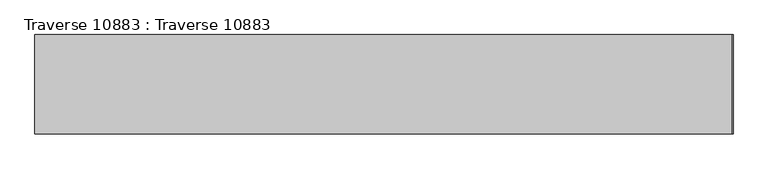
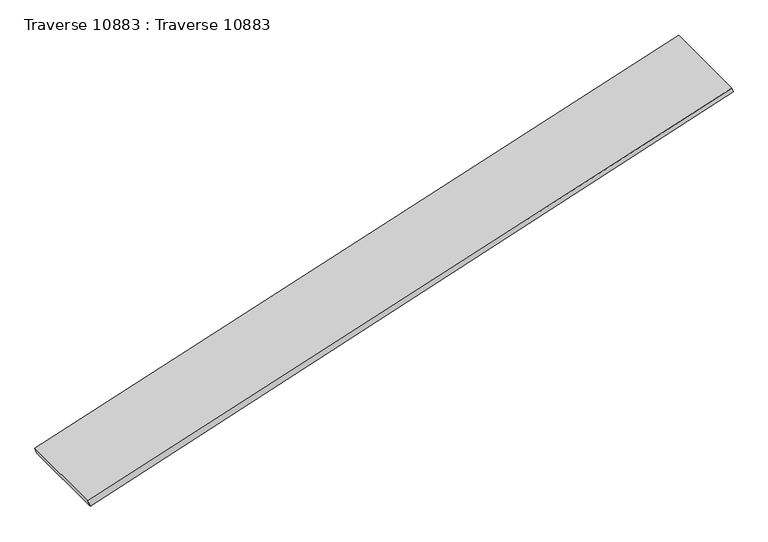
"""IFC4 building model written with IfcOpenShell, lengths in millimetres: beam geometry, Traverse 10883 : Traverse 10883."""

import ifcopenshell
import ifcopenshell.guid

model = None  # the IFC model being written
_history = None  # IfcOwnerHistory: only IFC2X3 demands one
_inside = {}  # id of a spatial element -> (the spatial element, [elements in it])
_under = {}  # id of a project, library or spatial element -> (it, [spatial elements below it])
_declared = {}  # id of a project -> (the project, [libraries it declares])
_typed = {}  # id of a type object -> (the type object, [elements of that type])
_made_of = {}  # id of a material, layer set ... -> (it, [elements and type objects made of it])


def new_model(schema):
    """Start an empty IFC model of exactly this schema.

    Asked for "IFC4X3", IfcOpenShell would pick the latest addendum, in which some entities
    have other attributes; the version numbers below select the first issue.
    IFC2X3 requires an IfcOwnerHistory on every rooted entity: one is made here for all.
    """
    global model, _history
    if schema == "IFC4X3":
        model = ifcopenshell.file(schema_version=(4, 3, 0, 0))
    else:
        model = ifcopenshell.file(schema=schema)
    _inside.clear()
    _under.clear()
    _declared.clear()
    _typed.clear()
    _made_of.clear()
    _history = None
    if model.schema == "IFC2X3":
        org = make("IfcOrganization", Name="unknown")
        user = make(
            "IfcPersonAndOrganization",
            ThePerson=make("IfcPerson", FamilyName="unknown"),
            TheOrganization=org,
        )
        app = make(
            "IfcApplication",
            ApplicationDeveloper=org,
            Version="unknown",
            ApplicationFullName="unknown",
            ApplicationIdentifier="unknown",
        )
        _history = make(
            "IfcOwnerHistory",
            OwningUser=user,
            OwningApplication=app,
            ChangeAction="ADDED",
            CreationDate=0,
        )
    return model


def make(cls, **values):
    """One entity of the class cls with the attributes given. An attribute that is None is left unset."""
    return model.create_entity(
        cls, **{name: value for name, value in values.items() if value is not None}
    )


def rooted(cls, **values):
    """An entity with a GlobalId (a new one), such as an element, a storey or a relation."""
    return make(cls, GlobalId=ifcopenshell.guid.new(), OwnerHistory=_history, **values)


def si_unit(unit_type, name, prefix=None):
    """IfcSIUnit, for example si_unit("LENGTHUNIT", "METRE", prefix="MILLI")."""
    return make("IfcSIUnit", UnitType=unit_type, Prefix=prefix, Name=name)


def assignment(units):
    """IfcUnitAssignment: the units of a project."""
    return None if units is None else make("IfcUnitAssignment", Units=units)


def point(xyz):
    """IfcCartesianPoint."""
    return None if xyz is None else make("IfcCartesianPoint", Coordinates=xyz)


def direction(xyz):
    """IfcDirection."""
    return None if xyz is None else make("IfcDirection", DirectionRatios=xyz)


def frame(location, z_axis=None, x_axis=None):
    """IfcAxis2Placement3D, a coordinate frame: its origin and axes. An axis left out is left unset."""
    return make(
        "IfcAxis2Placement3D",
        Location=point(location),
        Axis=direction(z_axis),
        RefDirection=direction(x_axis),
    )


def origin():
    """The frame at (0, 0, 0) with its axes left unset."""
    return frame((0.0, 0.0, 0.0))


def place(relative_to, where):
    """IfcLocalPlacement: puts the frame where relative to a parent placement (None: the world)."""
    return make(
        "IfcLocalPlacement", PlacementRelTo=relative_to, RelativePlacement=where
    )


def context(
    kind, dimensions, precision=None, world=None, true_north=None, identifier=None
):
    """IfcGeometricRepresentationContext, for example the 3D "Model" context."""
    return make(
        "IfcGeometricRepresentationContext",
        ContextIdentifier=identifier,
        ContextType=kind,
        CoordinateSpaceDimension=dimensions,
        Precision=precision,
        WorldCoordinateSystem=world,
        TrueNorth=true_north,
    )


def project(units=None, contexts=None):
    """IfcProject with its units and contexts."""
    return rooted(
        "IfcProject",
        Name="project",
        RepresentationContexts=contexts,
        UnitsInContext=assignment(units),
    )


def spatial(cls, under=None, at=None, **own):
    """A site, building, storey or space (cls), placed at a placement, below another one or the project."""
    s = rooted(cls, ObjectPlacement=at, **own)
    if under is not None:
        _under.setdefault(under.id(), (under, []))[1].append(s)
    return s


def polyline(points):
    """IfcPolyline through the points."""
    return make("IfcPolyline", Points=[point(p) for p in points])


def outline(outer, holes=None, kind="AREA"):
    """IfcArbitraryClosedProfileDef: a profile drawn as a closed curve; with holes, ...WithVoids."""
    if holes is None:
        return make("IfcArbitraryClosedProfileDef", ProfileType=kind, OuterCurve=outer)
    return make(
        "IfcArbitraryProfileDefWithVoids",
        ProfileType=kind,
        OuterCurve=outer,
        InnerCurves=holes,
    )


def extrude(swept, where, along, depth):
    """IfcExtrudedAreaSolid: the profile swept, set in the frame where, extruded along a direction by depth."""
    return make(
        "IfcExtrudedAreaSolid",
        SweptArea=swept,
        Position=where,
        ExtrudedDirection=direction(along),
        Depth=depth,
    )


def shape(context_of_items, identifier, shape_type, items):
    """IfcShapeRepresentation: the items that make up one representation, for example the "Body"."""
    return make(
        "IfcShapeRepresentation",
        ContextOfItems=context_of_items,
        RepresentationIdentifier=identifier,
        RepresentationType=shape_type,
        Items=items,
    )


def source(mapping_origin, context_of_items, identifier, shape_type, items):
    """IfcRepresentationMap: a shape defined once, which mapped items show again and again."""
    return make(
        "IfcRepresentationMap",
        MappingOrigin=mapping_origin,
        MappedRepresentation=shape(context_of_items, identifier, shape_type, items),
    )


def transform(
    local_origin,
    x_axis=None,
    y_axis=None,
    z_axis=None,
    scale=None,
    scale2=None,
    scale3=None,
    uniform=True,
):
    """IfcCartesianTransformationOperator3D, or its non-uniform kind. x_axis, y_axis, z_axis: its Axis1, 2, 3."""
    if uniform:
        return make(
            "IfcCartesianTransformationOperator3D",
            Axis1=direction(x_axis),
            Axis2=direction(y_axis),
            LocalOrigin=point(local_origin),
            Scale=scale,
            Axis3=direction(z_axis),
        )
    return make(
        "IfcCartesianTransformationOperator3DnonUniform",
        Axis1=direction(x_axis),
        Axis2=direction(y_axis),
        LocalOrigin=point(local_origin),
        Scale=scale,
        Axis3=direction(z_axis),
        Scale2=scale2,
        Scale3=scale3,
    )


def mapped(mapping_source, mapping_target):
    """IfcMappedItem: shows the shape of a source again, moved by a transform."""
    return make(
        "IfcMappedItem", MappingSource=mapping_source, MappingTarget=mapping_target
    )


def made_of(thing, what):
    """Note that an element or type object is made of a material, layer set ...; save() writes the relation."""
    if what is not None:
        _made_of.setdefault(what.id(), (what, []))[1].append(thing)
    return thing


def element(
    cls,
    number,
    at=None,
    inside=None,
    cuts=None,
    type_object=None,
    material=None,
    context=None,
    identifier="Body",
    shape_type=None,
    held_by="IfcProductDefinitionShape",
    body=None,
    shapes=None,
    **own,
):
    """One element of the class cls, such as IfcWall. Its Tag is "e" and its number.

    at: its placement. inside: the storey or other place that contains it. cuts: it is an
    opening in that element (IfcRelVoidsElement). A single representation is given by context,
    identifier, shape_type and body (its items); several are given by shapes. held_by: the class
    of the entity that holds the representations. save() writes the other relations.
    """
    e = rooted(cls, Tag="e%d" % number, ObjectPlacement=at, **own)
    if body is not None:
        shapes = [shape(context, identifier, shape_type, body)]
    if shapes is not None:
        e.Representation = make(held_by, Representations=shapes)
    if inside is not None:
        _inside.setdefault(inside.id(), (inside, []))[1].append(e)
    if cuts is not None:
        rooted(
            "IfcRelVoidsElement", RelatingBuildingElement=cuts, RelatedOpeningElement=e
        )
    if type_object is not None:
        _typed.setdefault(type_object.id(), (type_object, []))[1].append(e)
    return made_of(e, material)


def aggregate(whole, parts):
    """IfcRelAggregates: a whole, such as a stair, and the parts it consists of."""
    return rooted("IfcRelAggregates", RelatingObject=whole, RelatedObjects=parts)


def save(model, path):
    """Write the relations noted so far, then the file.

    IfcRelAggregates (storeys below a building ...), IfcRelContainedInSpatialStructure (elements
    in a storey), IfcRelDefinesByType, IfcRelAssociatesMaterial and IfcRelDeclares: one each for
    every whole, place, type object, material and project.
    """
    for whole, parts in _under.values():
        aggregate(whole, parts)
    for where, things in _inside.values():
        rooted(
            "IfcRelContainedInSpatialStructure",
            RelatedElements=things,
            RelatingStructure=where,
        )
    for kind, things in _typed.values():
        rooted("IfcRelDefinesByType", RelatedObjects=things, RelatingType=kind)
    for what, things in _made_of.values():
        rooted("IfcRelAssociatesMaterial", RelatedObjects=things, RelatingMaterial=what)
    for by, libraries in _declared.values():
        rooted("IfcRelDeclares", RelatingContext=by, RelatedDefinitions=libraries)
    model.write(path)


def traverse_10883_traverse_10883_851edb39(model_context):
    return source(origin(), model_context, "Body", "SweptSolid", [
        extrude(outline(polyline([(6921.6962848, 394.6740863), (7408.6540719, 1863.5461674), (7418.2504604, 1860.3647903), (6935.9459034, 389.9999701), (6921.6962848, 394.6740863)])), frame((0.0, -225.0, 0.0), z_axis=(0.0, 1.0, 0.0), x_axis=(0.0, 0.0, 1.0)), (0.0, 0.0, 1.0), 210.0),
    ])


if __name__ == "__main__":
    model = new_model("IFC4")
    model_context = context("Model", 3, world=origin())
    ifc_project = project(units=[si_unit("LENGTHUNIT", "METRE", prefix="MILLI")], contexts=[model_context])
    site = spatial("IfcSite", under=ifc_project)
    building = spatial("IfcBuilding", under=site)
    placement = place(None, origin())
    traverse_10883_traverse_10883_shape = traverse_10883_traverse_10883_851edb39(model_context)
    element("IfcBeam", 1, ObjectType="Traverse 10883 : Traverse 10883", at=placement, inside=building, context=model_context, shape_type="MappedRepresentation", body=[
        mapped(traverse_10883_traverse_10883_shape, transform((0.0, 0.0, 0.0), x_axis=(1.0, 0.0, 0.0), y_axis=(0.0, 1.0, 0.0), z_axis=(0.0, 0.0, 1.0))),
    ])
    save(model, "model.ifc")
